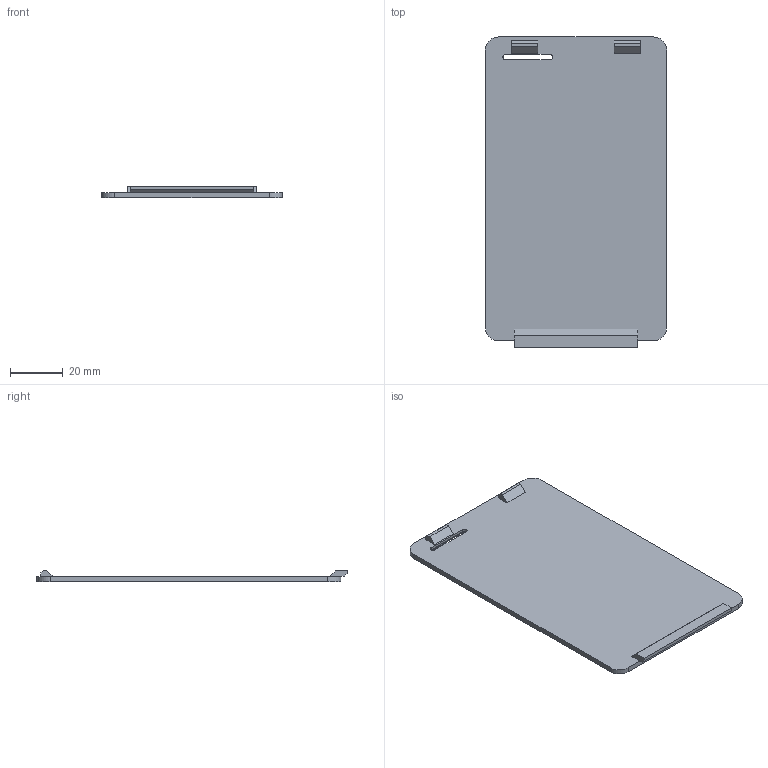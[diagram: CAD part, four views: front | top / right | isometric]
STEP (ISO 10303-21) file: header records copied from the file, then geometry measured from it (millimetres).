
FILE_DESCRIPTION(/* description */ ('STEP AP242','CAx-IF Rec.Pracs.---Representation and Presentation of Product Manufacturing Information (PMI)---4.0---2014-10-13','CAx-IF Rec.Pracs.---3D Tessellated Geometry---0.4---2014-09-14','2;1'),/* implementation_level */ '2;1');
FILE_NAME(/* name */ 'Base Shell - Right Cover Panel',/* time_stamp */ '2025-07-21T16:38:40Z',/* author */ (''),/* organization */ (''),/* preprocessor_version */ 'ST-DEVELOPER v20',/* originating_system */ 'ONSHAPE BY PTC INC, 1.201',/* authorisation */ ' ');
FILE_SCHEMA (('AP242_MANAGED_MODEL_BASED_3D_ENGINEERING_MIM_LF { 1 0 10303 442 1 1 4 }'));
Length unit declared in the file: metre
Products named in the file (1): Right Cover Panel
Bounding box: 69 x 118.1 x 4.5 mm (x, y, z)
Volume: 16588.7 mm3; surface area: 17151.7 mm2
Topology: 1 solids, 1 shells, 39 faces, 101 edges, 68 vertices
Faces by surface type: plane 31, cylinder 8
Entity records: 1213 total; most frequent: CARTESIAN_POINT 209, ORIENTED_EDGE 202, DIRECTION 197, EDGE_CURVE 101, LINE 85, VECTOR 85, VERTEX_POINT 68, AXIS2_PLACEMENT_3D 56
